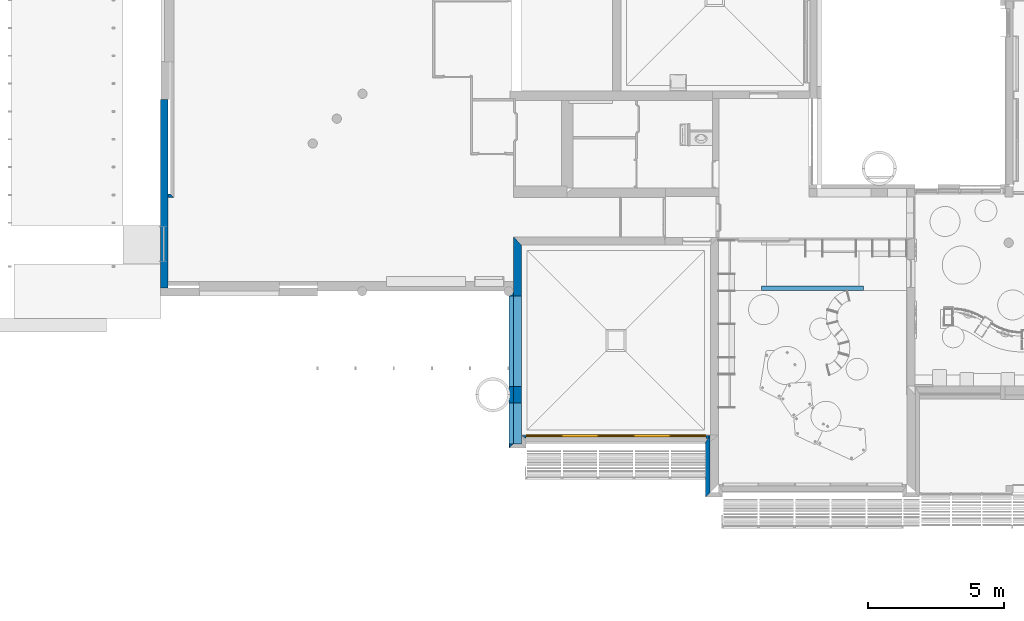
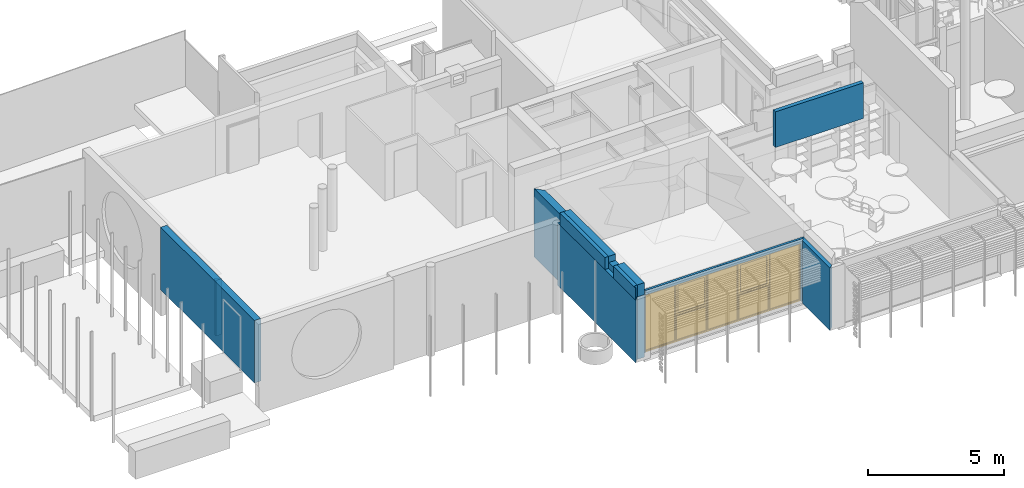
# One storey, part 20 of 64: 9 walls, 5 windows, 5 openings.
"""IFC2X3 building model written with IfcOpenShell, lengths in metres."""

from ifc_helpers import new_model, entity, si_unit, converted_unit, derived_unit, direction, frame, frame_2d, origin, origin_2d_with_axis, place, context, subcontext, project, spatial, polyline, rectangle, outline, extrude, faceted_brep, source, transform, mapped, material, material_list, layer, layer_set, layer_usage, type_object, type_shapes, element, fill, save


model = new_model("IFC2X3")

# Units and contexts
model_context = context("Model", 3, precision=1e-05, world=origin(), true_north=direction((6.123031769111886e-17, 1.0)))
body_context = subcontext(model_context, "Body", "Model", "MODEL_VIEW")
ifc_project = project(units=[si_unit("LENGTHUNIT", "METRE"), si_unit("AREAUNIT", "SQUARE_METRE"), si_unit("VOLUMEUNIT", "CUBIC_METRE"), converted_unit("PLANEANGLEUNIT", "DEGREE", entity("IfcRatioMeasure", 0.017453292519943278), si_unit("PLANEANGLEUNIT", "RADIAN"), dimensions=[0, 0, 0, 0, 0, 0, 0]), si_unit("MASSUNIT", "GRAM", prefix="KILO"), derived_unit("MASSDENSITYUNIT", [(si_unit("MASSUNIT", "GRAM", prefix="KILO"), 1), (si_unit("LENGTHUNIT", "METRE"), -3)]), derived_unit("MOMENTOFINERTIAUNIT", [(si_unit("LENGTHUNIT", "METRE"), 4)]), si_unit("TIMEUNIT", "SECOND"), si_unit("FREQUENCYUNIT", "HERTZ"), si_unit("THERMODYNAMICTEMPERATUREUNIT", "DEGREE_CELSIUS"), derived_unit("THERMALTRANSMITTANCEUNIT", [(si_unit("MASSUNIT", "GRAM", prefix="KILO"), 1), (si_unit("THERMODYNAMICTEMPERATUREUNIT", "KELVIN"), -1), (si_unit("TIMEUNIT", "SECOND"), -3)]), derived_unit("THERMALCONDUCTANCEUNIT", [(si_unit("MASSUNIT", "GRAM", prefix="KILO"), 1), (si_unit("LENGTHUNIT", "METRE"), 1), (si_unit("THERMODYNAMICTEMPERATUREUNIT", "KELVIN"), -1), (si_unit("TIMEUNIT", "SECOND"), -3)]), derived_unit("VOLUMETRICFLOWRATEUNIT", [(si_unit("LENGTHUNIT", "METRE"), 3), (si_unit("TIMEUNIT", "SECOND"), -1)]), derived_unit("MASSFLOWRATEUNIT", [(si_unit("MASSUNIT", "GRAM", prefix="KILO"), 1), (si_unit("TIMEUNIT", "SECOND"), -1)]), derived_unit("ROTATIONALFREQUENCYUNIT", [(si_unit("TIMEUNIT", "SECOND"), -1)]), si_unit("ELECTRICCURRENTUNIT", "AMPERE"), si_unit("ELECTRICVOLTAGEUNIT", "VOLT"), si_unit("POWERUNIT", "WATT"), si_unit("FORCEUNIT", "NEWTON", prefix="KILO"), si_unit("ILLUMINANCEUNIT", "LUX"), si_unit("LUMINOUSFLUXUNIT", "LUMEN"), si_unit("LUMINOUSINTENSITYUNIT", "CANDELA"), derived_unit("USERDEFINED", [(si_unit("MASSUNIT", "GRAM", prefix="KILO"), -1), (si_unit("LENGTHUNIT", "METRE"), -2), (si_unit("TIMEUNIT", "SECOND"), 3), (si_unit("LUMINOUSFLUXUNIT", "LUMEN"), 1)]), derived_unit("USERDEFINED", [(si_unit("MASSUNIT", "GRAM", prefix="KILO"), 1), (si_unit("LENGTHUNIT", "METRE"), 3), (si_unit("TIMEUNIT", "SECOND"), -3), (si_unit("ELECTRICCURRENTUNIT", "AMPERE"), -2)]), derived_unit("USERDEFINED", [(si_unit("LENGTHUNIT", "METRE"), 2), (si_unit("TIMEUNIT", "SECOND"), -2)]), derived_unit("SOUNDPOWERUNIT", [(si_unit("MASSUNIT", "GRAM", prefix="KILO"), 1), (si_unit("LENGTHUNIT", "METRE"), 2), (si_unit("TIMEUNIT", "SECOND"), -3)]), derived_unit("SOUNDPRESSUREUNIT", [(si_unit("MASSUNIT", "GRAM", prefix="KILO"), 1), (si_unit("LENGTHUNIT", "METRE"), -1), (si_unit("TIMEUNIT", "SECOND"), -2)]), derived_unit("LINEARVELOCITYUNIT", [(si_unit("LENGTHUNIT", "METRE"), 1), (si_unit("TIMEUNIT", "SECOND"), -1)]), si_unit("PRESSUREUNIT", "PASCAL"), derived_unit("USERDEFINED", [(si_unit("LENGTHUNIT", "METRE"), -2), (si_unit("MASSUNIT", "GRAM", prefix="KILO"), 1), (si_unit("TIMEUNIT", "SECOND"), -2)]), derived_unit("LINEARFORCEUNIT", [(si_unit("MASSUNIT", "GRAM", prefix="KILO"), 1), (si_unit("LENGTHUNIT", "METRE"), 1), (si_unit("TIMEUNIT", "SECOND"), -2), (si_unit("LENGTHUNIT", "METRE"), -1)]), derived_unit("PLANARFORCEUNIT", [(si_unit("MASSUNIT", "GRAM", prefix="KILO"), 1), (si_unit("LENGTHUNIT", "METRE"), 1), (si_unit("TIMEUNIT", "SECOND"), -2), (si_unit("LENGTHUNIT", "METRE"), -2)]), derived_unit("SPECIFICHEATCAPACITYUNIT", [(si_unit("LENGTHUNIT", "METRE"), 2), (si_unit("TIMEUNIT", "SECOND"), -2), (si_unit("THERMODYNAMICTEMPERATUREUNIT", "KELVIN"), -1)]), derived_unit("VAPORPERMEABILITYUNIT", [(si_unit("TIMEUNIT", "SECOND"), 1), (si_unit("LENGTHUNIT", "METRE"), -1)]), derived_unit("DYNAMICVISCOSITYUNIT", [(si_unit("MASSUNIT", "GRAM", prefix="KILO"), 1), (si_unit("LENGTHUNIT", "METRE"), -1), (si_unit("TIMEUNIT", "SECOND"), -1)]), derived_unit("THERMALEXPANSIONCOEFFICIENTUNIT", [(si_unit("THERMODYNAMICTEMPERATUREUNIT", "KELVIN"), -1)])], contexts=[model_context])

# Site, building, storey
site_placement = place(None, origin())
site = spatial("IfcSite", under=ifc_project, at=site_placement, Name="Default", CompositionType="ELEMENT")
building_placement = place(site_placement, origin())
building = spatial("IfcBuilding", under=site, at=building_placement, CompositionType="ELEMENT")
storey_placement = place(building_placement, origin())
storey = spatial("IfcBuildingStorey", under=building, at=storey_placement, Name="REZ-DE-CHAUSSÉE", CompositionType="ELEMENT", Elevation=0.0)

# Walls
wall_type_1 = type_object("IfcWallType", Name="MurExt-005", PredefinedType="NOTDEFINED")
wall_1_placement = place(storey_placement, frame((102.66075227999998, 5.95720948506, 2.8), z_axis=(0.0, 0.0, 1.0), x_axis=(0.0, 1.0, 0.0)))
element("IfcWall", 1, at=wall_1_placement, inside=storey, type_object=wall_type_1, Name="MurExt-005:MurExt-005", ObjectType="MurExt-005:MurExt-005", context=body_context, shape_type="SweptSolid", body=[
    extrude(rectangle(XDim=3.3100000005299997, YDim=0.3000000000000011, at=origin_2d_with_axis()), frame((3.764999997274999, -0.15000000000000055, 0.0)), (0.0, 0.0, 1.0), 0.5400000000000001),
    extrude(rectangle(XDim=1.4899999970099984, YDim=0.3000000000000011, at=frame_2d((-5.551115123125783e-16, 0.0), x_axis=(1.0, 0.0))), frame((0.7449999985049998, -0.15000000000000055, 0.0)), (0.0, 0.0, 1.0), 0.5400000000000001),
])
wall_type_2 = type_object("IfcWallType", Name="MurExt-017", PredefinedType="NOTDEFINED")
wall_2_placement = place(storey_placement, frame((102.50075227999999, 5.797209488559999, 2.8), z_axis=(0.0, 0.0, 1.0), x_axis=(0.0, 1.0, 0.0)))
element("IfcWall", 2, at=wall_2_placement, inside=storey, type_object=wall_type_2, Name="MurExt-017:MurExt-017", ObjectType="MurExt-017:MurExt-017", context=body_context, shape_type="SweptSolid", body=[
    extrude(rectangle(XDim=1.6299999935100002, YDim=0.019999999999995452, at=frame_2d((-1.1102230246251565e-15, 0.0), x_axis=(1.0, 0.0))), frame((0.834999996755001, -0.009999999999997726, 0.0)), (0.0, 0.0, 1.0), 0.5400000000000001),
    extrude(rectangle(XDim=3.3100000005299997, YDim=0.019999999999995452, at=origin_2d_with_axis()), frame((3.9249999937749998, -0.009999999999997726, 0.0)), (0.0, 0.0, 1.0), 0.5400000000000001),
    extrude(rectangle(XDim=1.4899999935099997, YDim=0.14000000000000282, at=origin_2d_with_axis()), frame((0.9049999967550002, -0.08999999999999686, 0.0)), (0.0, 0.0, 1.0), 0.5400000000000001),
    extrude(rectangle(XDim=3.3100000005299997, YDim=0.14000000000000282, at=origin_2d_with_axis()), frame((3.9249999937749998, -0.08999999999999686, 0.0)), (0.0, 0.0, 1.0), 0.5400000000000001),
])
wall_type_3 = type_object("IfcWallType", Name="MurExt-021", PredefinedType="NOTDEFINED")
wall_3_placement = place(storey_placement, frame((111.76075228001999, 11.577209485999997, 2.8999999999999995)))
element("IfcWall", 3, at=wall_3_placement, inside=storey, type_object=wall_type_3, Name="MurExt-021 300629:MurExt-021 300629", ObjectType="MurExt-021 300629:MurExt-021 300629", context=body_context, shape_type="SweptSolid", body=[
    extrude(rectangle(XDim=3.7299999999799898, YDim=0.17000000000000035, at=origin_2d_with_axis()), frame((1.8649999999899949, 0.08500000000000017, 0.0), z_axis=(0.0, 0.0, 1.0), x_axis=(-1.0, 0.0, 0.0)), (0.0, 0.0, 1.0), 1.6),
])
ifc_material_1 = material(Name="Appareillage - Pierre taillé")
ifc_layer_1 = layer(ifc_material_1, 0.29999999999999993)
ifc_layer_set_1 = layer_set([ifc_layer_1], Name="Mur de base:Struct. - Pierre 300")
ifc_layer_usage_1 = layer_usage(ifc_layer_set_1, "AXIS2", "NEGATIVE", 0.14999999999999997)
wall_type_4 = type_object("IfcWallType", Name="Mur de base:Struct. - Pierre 300", PredefinedType="STANDARD", material=ifc_layer_set_1)
wall_4_placement = place(storey_placement, frame((102.81075227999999, 5.95720948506, 0.0), z_axis=(0.0, 0.0, 1.0), x_axis=(0.0, 1.0, 0.0)))
element("IfcWallStandardCase", 4, at=wall_4_placement, inside=storey, type_object=wall_type_4, material=ifc_layer_usage_1, Name="MurExt-005", ObjectType="Mur de base:Struct. - Pierre 300", context=body_context, shape_type="SweptSolid", body=[
    extrude(outline(polyline([(7.27999999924, -0.15000000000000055), (7.589999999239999, 0.15000000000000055), (0.0, 0.15000000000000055), (0.0, -0.15000000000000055), (7.27999999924, -0.15000000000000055)])), origin(), (0.0, 0.0, 1.0), 3.06),
])
ifc_material_2 = material(Name="Enduit - Jaune nature")
ifc_layer_2 = layer(ifc_material_2, 0.02)
ifc_material_3 = material(Name="Isolation - Fibre de verre")
ifc_layer_3 = layer(ifc_material_3, 0.14)
ifc_layer_set_2 = layer_set([ifc_layer_2, ifc_layer_3], Name="Mur de base:ABA ITE 140 + enduit 160")
ifc_layer_usage_2 = layer_usage(ifc_layer_set_2, "AXIS2", "NEGATIVE", 0.08)
wall_type_5 = type_object("IfcWallType", Name="Mur de base:ABA ITE 140 + enduit 160", PredefinedType="STANDARD", material=ifc_layer_set_2)
wall_5_placement = place(storey_placement, frame((109.790752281, 4.00720948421, 0.0), z_axis=(0.0, 0.0, 1.0), x_axis=(0.0, 1.0, 0.0)))
element("IfcWallStandardCase", 5, at=wall_5_placement, inside=storey, type_object=wall_type_5, material=ifc_layer_usage_2, Name="MurExt-017", ObjectType="Mur de base:ABA ITE 140 + enduit 160", context=body_context, shape_type="SweptSolid", body=[
    extrude(outline(polyline([(2.269999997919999, -0.07999999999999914), (2.0199999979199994, 0.07999999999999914), (0.0, 0.07999999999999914), (0.16000000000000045, -0.07999999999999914), (2.269999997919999, -0.07999999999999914)])), origin(), (0.0, 0.0, 1.0), 2.8),
])
wall_6_placement = place(storey_placement, frame((102.58075227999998, 5.79720948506, 0.0), z_axis=(0.0, 0.0, 1.0), x_axis=(0.0, 1.0, 0.0)))
element("IfcWallStandardCase", 6, at=wall_6_placement, inside=storey, type_object=wall_type_5, material=ifc_layer_usage_2, Name="MurExt-019", ObjectType="Mur de base:ABA ITE 140 + enduit 160", context=body_context, shape_type="SweptSolid", body=[
    extrude(outline(polyline([(5.751009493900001, -0.07999999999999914), (5.751009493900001, 0.07999999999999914), (0.0, 0.07999999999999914), (0.16000000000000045, -0.07999999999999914), (5.751009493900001, -0.07999999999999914)])), origin(), (0.0, 0.0, 1.0), 2.8),
])
ifc_material_4 = material(Name="Bois - Pin granuleux horizontal")
ifc_layer_4 = layer(ifc_material_4, 0.02)
ifc_material_5 = material(Name="Bois - Panneaux de particules")
ifc_layer_5 = layer(ifc_material_5, 0.0125)
ifc_layer_6 = layer(ifc_material_3, 0.145)
ifc_layer_7 = layer(ifc_material_5, 0.0125)
ifc_layer_8 = layer(ifc_material_3, 0.067)
ifc_material_6 = material(Name="Plâtre - Plaques de plâtre")
ifc_layer_9 = layer(ifc_material_6, 0.013)
ifc_layer_set_3 = layer_set([ifc_layer_4, ifc_layer_5, ifc_layer_6, ifc_layer_7, ifc_layer_8, ifc_layer_9], Name="Mur de base:ABA MOB ITI costière 270")
ifc_layer_usage_3 = layer_usage(ifc_layer_set_3, "AXIS2", "NEGATIVE", 0.13499999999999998)
wall_type_6 = type_object("IfcWallType", Name="Mur de base:ABA MOB ITI costière 270", PredefinedType="STANDARD", material=ifc_layer_set_3)
wall_7_placement = place(storey_placement, frame((89.8657522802, 11.677209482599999, 0.0), z_axis=(0.0, 0.0, 1.0), x_axis=(0.0, 1.0, 0.0)))
element("IfcWallStandardCase", 7, at=wall_7_placement, inside=storey, type_object=wall_type_6, material=ifc_layer_usage_3, Name="MurExt-007", ObjectType="Mur de base:ABA MOB ITI costière 270", context=body_context, shape_type="SweptSolid", body=[
    extrude(rectangle(XDim=6.9000000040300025, YDim=0.2700000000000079, at=frame_2d((3.4500000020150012, 0.0), x_axis=(-1.0, 0.0))), origin(), (0.0, 0.0, 1.0), 2.8),
])
ifc_layer_10 = layer(ifc_material_6, 0.013)
ifc_layer_11 = layer(ifc_material_3, 0.127)
ifc_layer_set_4 = layer_set([ifc_layer_10, ifc_layer_11], Name="Mur de base:ABA doublage 14cm 140")
ifc_layer_usage_4 = layer_usage(ifc_layer_set_4, "AXIS2", "NEGATIVE", 0.07)
wall_type_7 = type_object("IfcWallType", Name="Mur de base:ABA doublage 14cm 140", PredefinedType="STANDARD", material=ifc_layer_set_4)
wall_8_placement = place(storey_placement, frame((90.23075228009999, 15.047209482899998, 0.0), z_axis=(0.0, 0.0, 1.0), x_axis=(-1.0, 0.0, 0.0)))
element("IfcWallStandardCase", 8, at=wall_8_placement, inside=storey, type_object=wall_type_7, material=ifc_layer_usage_4, Name="MurExt-026", ObjectType="Mur de base:ABA doublage 14cm 140", context=body_context, shape_type="SweptSolid", body=[
    extrude(outline(polyline([(0.22999999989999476, -0.07000000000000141), (0.22999999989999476, 0.06999999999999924), (0.0, 0.06999999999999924), (0.14000000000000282, -0.07000000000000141), (0.22999999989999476, -0.07000000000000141)])), origin(), (0.0, 0.0, 1.0), 2.4999999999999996),
])

# Wall, openings, windows
ifc_layer_12 = layer(ifc_material_3, 0.1)
ifc_layer_set_5 = layer_set([ifc_layer_12], Name="Mur de base:Isolation - Laine de verre 100")
ifc_layer_usage_5 = layer_usage(ifc_layer_set_5, "AXIS2", "NEGATIVE", 0.05)
wall_type_8 = type_object("IfcWallType", Name="Mur de base:Isolation - Laine de verre 100", PredefinedType="STANDARD", material=ifc_layer_set_5)
wall_9_placement = place(storey_placement, frame((109.870752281, 6.20720948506, 0.0), z_axis=(0.0, 0.0, 1.0), x_axis=(-1.0, 0.0, 0.0)))
wall_9 = element("IfcWallStandardCase", 9, at=wall_9_placement, inside=storey, type_object=wall_type_8, material=ifc_layer_usage_5, Name="MurExt-027", ObjectType="Mur de base:Isolation - Laine de verre 100", context=body_context, shape_type="SweptSolid", body=[
    extrude(outline(polyline([(0.0, -0.050000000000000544), (6.910000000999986, -0.050000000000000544), (6.750000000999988, 0.04999999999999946), (0.0, 0.04999999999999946), (0.0, -0.050000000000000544)])), origin(), (0.0, 0.0, 1.0), 2.8),
])
opening_1_placement = place(wall_9_placement, frame((109.870752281, 6.20720948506, 0.0), z_axis=(0.0, 0.0, 1.0), x_axis=(-1.0, 0.0, 0.0)))
opening_1 = element("IfcOpeningElement", 10, at=opening_1_placement, cuts=wall_9, Name="MurExt-027", ObjectType="Opening", context=body_context, shape_type="SweptSolid", body=[
    extrude(rectangle(XDim=2.6, YDim=1.3199999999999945, at=frame_2d((0.0, -8.659739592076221e-15), x_axis=(1.0, 0.0))), frame((106.42075228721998, 6.308209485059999, 1.3), z_axis=(0.0, -1.0, 0.0), x_axis=(0.0, 0.0, -1.0)), (0.0, 0.0, 1.0), 0.20199999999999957),
])
opening_2_placement = place(wall_9_placement, frame((109.870752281, 6.20720948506, 0.0), z_axis=(0.0, 0.0, 1.0), x_axis=(-1.0, 0.0, 0.0)))
opening_2 = element("IfcOpeningElement", 11, at=opening_2_placement, cuts=wall_9, Name="MurExt-027", ObjectType="Opening", context=body_context, shape_type="SweptSolid", body=[
    extrude(rectangle(XDim=2.6, YDim=1.3199999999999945, at=frame_2d((8.659739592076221e-15, 0.0), x_axis=(0.0, 1.0))), frame((107.74075228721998, 6.308209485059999, 1.3), z_axis=(0.0, -1.0, 0.0), x_axis=(1.0, 0.0, 0.0)), (0.0, 0.0, 1.0), 0.20199999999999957),
])
opening_3_placement = place(wall_9_placement, frame((109.870752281, 6.20720948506, 0.0), z_axis=(0.0, 0.0, 1.0), x_axis=(-1.0, 0.0, 0.0)))
opening_3 = element("IfcOpeningElement", 12, at=opening_3_placement, cuts=wall_9, Name="MurExt-027", ObjectType="Opening", context=body_context, shape_type="SweptSolid", body=[
    extrude(rectangle(XDim=2.6, YDim=1.3199999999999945, at=frame_2d((0.0, 8.659739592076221e-15), x_axis=(1.0, 0.0))), frame((109.06075228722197, 6.308209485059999, 1.3), z_axis=(0.0, -1.0, 0.0), x_axis=(0.0, 0.0, -1.0)), (0.0, 0.0, 1.0), 0.20199999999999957),
])
opening_4_placement = place(wall_9_placement, frame((109.870752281, 6.20720948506, 0.0), z_axis=(0.0, 0.0, 1.0), x_axis=(-1.0, 0.0, 0.0)))
opening_4 = element("IfcOpeningElement", 13, at=opening_4_placement, cuts=wall_9, Name="MurExt-027", ObjectType="Opening", context=body_context, shape_type="SweptSolid", body=[
    extrude(rectangle(XDim=2.6, YDim=1.3199999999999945, at=frame_2d((0.0, -8.659739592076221e-15), x_axis=(1.0, 0.0))), frame((105.10075228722, 6.308209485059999, 1.3), z_axis=(0.0, -1.0, 0.0), x_axis=(0.0, 0.0, -1.0)), (0.0, 0.0, 1.0), 0.20199999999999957),
])
opening_5_placement = place(wall_9_placement, frame((109.870752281, 6.20720948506, 0.0), z_axis=(0.0, 0.0, 1.0), x_axis=(-1.0, 0.0, 0.0)))
opening_5 = element("IfcOpeningElement", 14, at=opening_5_placement, cuts=wall_9, Name="MurExt-027", ObjectType="Opening", context=body_context, shape_type="SweptSolid", body=[
    extrude(rectangle(XDim=2.6, YDim=1.3199999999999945, at=frame_2d((-8.659739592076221e-15, 0.0), x_axis=(0.0, 1.0))), frame((103.78075228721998, 6.308209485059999, 1.3), z_axis=(0.0, -1.0, 0.0), x_axis=(1.0, 0.0, 0.0)), (0.0, 0.0, 1.0), 0.20199999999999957),
])
ifc_material_7 = material(Name="Transp. - Verre clair (rapide)")
ifc_material_8 = material(Name="Peinture - Anthracite")
ifc_material_list = material_list([ifc_material_7, ifc_material_8])
window_style_1 = type_object("IfcWindowStyle", Name="Fen-004", ConstructionType="NOTDEFINED", OperationType="NOTDEFINED", ParameterTakesPrecedence=False, Sizeable=False, material=ifc_material_list)
shared_shape_1 = source(origin(), body_context, "Body", "SweptSolid", [
    extrude(rectangle(XDim=1.26, YDim=0.010000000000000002, at=frame_2d((0.0, -4.336808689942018e-18), x_axis=(1.0, 0.0))), frame((0.6600000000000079, -0.15099999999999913, 0.0601)), (0.0, 0.0, 1.0), 2.4899),
    extrude(outline(polyline([(-1.3, -0.6599999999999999), (1.3, -0.6599999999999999), (1.3, 0.6599999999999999), (-1.3, 0.6599999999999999), (-1.3, -0.6599999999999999)]), holes=[polyline([(1.2400000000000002, 0.63), (1.2400000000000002, -0.63), (-1.2499999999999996, -0.63), (-1.2499999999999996, 0.63), (1.2400000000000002, 0.63)])]), frame((0.6600000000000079, -0.20099999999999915, 1.3), z_axis=(0.0, 1.0, 0.0), x_axis=(0.0, 0.0, -1.0)), (0.0, 0.0, 1.0), 0.1),
])
type_shapes(window_style_1, [shared_shape_1])
window_1_placement = place(opening_1_placement, frame((107.08075228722, 6.10620948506, 0.0), z_axis=(0.0, 0.0, 1.0), x_axis=(-1.0, 0.0, 0.0)))
window_1 = element("IfcWindow", 15, at=window_1_placement, inside=storey, type_object=window_style_1, material=ifc_material_list, Name="Fen-004 54853:Fen-004 54853", ObjectType="Fen-004 54853:Fen-004 54853", OverallHeight=2.6, OverallWidth=1.3199999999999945, context=body_context, shape_type="MappedRepresentation", body=[
    mapped(shared_shape_1, transform((0.0, 0.0, 0.0), scale=1.0)),
])
fill(opening_1, window_1)
window_2_placement = place(opening_3_placement, frame((109.72075228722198, 6.10620948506, 0.0), z_axis=(0.0, 0.0, 1.0), x_axis=(-1.0, 0.0, 0.0)))
window_2 = element("IfcWindow", 16, at=window_2_placement, inside=storey, type_object=window_style_1, material=ifc_material_list, Name="Fen-004 54853:Fen-004 54853", ObjectType="Fen-004 54853:Fen-004 54853", OverallHeight=2.6, OverallWidth=1.3199999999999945, context=body_context, shape_type="MappedRepresentation", body=[
    mapped(shared_shape_1, transform((0.0, 0.0, 0.0), scale=1.0)),
])
fill(opening_3, window_2)
window_style_2 = type_object("IfcWindowStyle", Name="Fen-004", ConstructionType="NOTDEFINED", OperationType="NOTDEFINED", ParameterTakesPrecedence=False, Sizeable=False, material=ifc_material_7)
shared_shape_2 = source(origin(), body_context, "Body", "Brep", [
    faceted_brep([(0.0, -0.10100000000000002, 2.6), (1.3199999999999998, -0.10100000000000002, 2.6), (1.3199999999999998, -0.10100000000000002, 0.0), (0.0, -0.10100000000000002, 0.0), (1.29, -0.10100000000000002, 1.1999999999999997), (1.29, -0.10100000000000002, 2.55), (0.029999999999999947, -0.10100000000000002, 2.55), (0.029999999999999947, -0.10100000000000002, 1.1999999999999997), (1.29, -0.10100000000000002, 1.15), (0.029999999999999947, -0.10100000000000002, 1.15), (0.029999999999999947, -0.10100000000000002, 0.059999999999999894), (1.29, -0.10100000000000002, 0.059999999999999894), (0.0, -0.201, 2.6), (1.3199999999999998, -0.201, 2.6), (1.3199999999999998, -0.201, 0.0), (0.0, -0.201, 0.0), (1.29, -0.201, 1.1999999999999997), (1.29, -0.201, 2.55), (0.029999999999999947, -0.201, 2.55), (0.029999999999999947, -0.201, 1.1999999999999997), (1.29, -0.201, 1.15), (0.029999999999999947, -0.201, 1.15), (0.029999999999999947, -0.201, 0.05999999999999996), (1.29, -0.201, 0.06), (1.29, -0.161, 2.55), (0.029999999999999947, -0.161, 2.55), (0.029999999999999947, -0.161, 1.1999999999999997), (1.29, -0.161, 1.1999999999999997), (1.22, -0.161, 2.48), (1.22, -0.161, 1.2699999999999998), (0.09999999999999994, -0.161, 1.2699999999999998), (0.09999999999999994, -0.161, 2.48), (1.29, -0.11100000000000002, 2.55), (0.029999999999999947, -0.11100000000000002, 2.55), (0.029999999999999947, -0.11100000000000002, 1.1999999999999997), (1.29, -0.11100000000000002, 1.1999999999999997), (1.22, -0.11100000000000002, 2.48), (1.22, -0.11100000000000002, 1.2699999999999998), (0.09999999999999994, -0.11100000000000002, 1.2699999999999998), (0.09999999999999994, -0.11100000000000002, 2.48), (0.029999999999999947, -0.136, 2.55), (0.029999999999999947, -0.136, 1.1999999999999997), (1.29, -0.136, 2.55), (1.29, -0.136, 1.1999999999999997), (0.09999999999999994, -0.14100000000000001, 1.2699999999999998), (0.09999999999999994, -0.131, 1.2699999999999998), (1.22, -0.131, 1.2699999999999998), (1.22, -0.14100000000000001, 1.2699999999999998), (0.09999999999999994, -0.14100000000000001, 2.48), (0.09999999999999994, -0.131, 2.48), (1.22, -0.131, 2.48), (1.22, -0.14100000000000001, 2.48), (0.029999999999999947, -0.156, 0.0601), (0.029999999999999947, -0.14600000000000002, 0.0601), (1.29, -0.14600000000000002, 0.0601), (1.29, -0.156, 0.0601), (0.029999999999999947, -0.156, 1.15), (0.029999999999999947, -0.14600000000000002, 1.15), (1.29, -0.14600000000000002, 1.15), (1.29, -0.156, 1.15)], [[[0, 1, 2, 3], [4, 5, 6, 7], [8, 9, 10, 11]], [[1, 0, 12, 13]], [[2, 1, 13, 14]], [[3, 2, 14, 15]], [[0, 3, 15, 12]], [[16, 17, 5, 4]], [[6, 5, 17, 18]], [[7, 6, 18, 19]], [[4, 7, 19, 16]], [[20, 21, 9, 8]], [[21, 22, 10, 9]], [[11, 10, 22, 23]], [[8, 11, 23, 20]], [[14, 13, 12, 15], [16, 19, 18, 17], [20, 23, 22, 21]], [[24, 25, 26, 27], [28, 29, 30, 31]], [[24, 32, 33, 25]], [[33, 34, 26, 25]], [[34, 35, 27, 26]], [[27, 35, 32, 24]], [[28, 36, 37, 29]], [[37, 38, 30, 29]], [[38, 39, 31, 30]], [[31, 39, 36, 28]], [[33, 32, 35, 34], [37, 36, 39, 38]], [[26, 25, 40, 41]], [[27, 24, 42, 43]], [[26, 27, 43, 41]], [[25, 24, 42, 40]], [[41, 40, 33, 34]], [[43, 42, 32, 35]], [[41, 43, 35, 34]], [[40, 42, 32, 33]], [[44, 45, 46, 47]], [[48, 49, 45, 44]], [[45, 49, 50, 46]], [[47, 46, 50, 51]], [[44, 47, 51, 48]], [[51, 50, 49, 48]], [[52, 53, 54, 55]], [[56, 57, 53, 52]], [[53, 57, 58, 54]], [[55, 54, 58, 59]], [[52, 55, 59, 56]], [[59, 58, 57, 56]]]),
])
type_shapes(window_style_2, [shared_shape_2])
window_3_placement = place(opening_2_placement, frame((108.40075228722, 6.10620948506, 0.0), z_axis=(0.0, 0.0, 1.0), x_axis=(-1.0, 0.0, 0.0)))
window_3 = element("IfcWindow", 17, at=window_3_placement, inside=storey, type_object=window_style_2, material=ifc_material_7, Name="Fen-004 55397:Fen-004 55397", ObjectType="Fen-004 55397:Fen-004 55397", OverallHeight=2.6, OverallWidth=1.3199999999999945, context=body_context, shape_type="MappedRepresentation", body=[
    mapped(shared_shape_2, transform((0.0, 0.0, 0.0), scale=1.0)),
])
fill(opening_2, window_3)
window_style_3 = type_object("IfcWindowStyle", Name="Fen-004", ConstructionType="NOTDEFINED", OperationType="NOTDEFINED", ParameterTakesPrecedence=False, Sizeable=False, material=ifc_material_7)
shared_shape_3 = source(origin(), body_context, "Body", "Brep", [
    faceted_brep([(1.3199999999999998, -0.10100000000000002, 2.6), (1.3199999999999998, -0.10100000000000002, 0.0), (0.0, -0.10100000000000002, 0.0), (0.0, -0.10100000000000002, 2.6), (0.029999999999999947, -0.10100000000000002, 1.1999999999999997), (1.29, -0.10100000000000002, 1.1999999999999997), (1.29, -0.10100000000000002, 2.55), (0.029999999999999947, -0.10100000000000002, 2.55), (0.029999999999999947, -0.10100000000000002, 1.15), (0.029999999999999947, -0.10100000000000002, 0.059999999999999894), (1.29, -0.10100000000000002, 0.059999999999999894), (1.29, -0.10100000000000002, 1.15), (1.3199999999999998, -0.201, 2.6), (1.3199999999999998, -0.201, 0.0), (0.0, -0.201, 0.0), (0.0, -0.201, 2.6), (0.029999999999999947, -0.201, 1.1999999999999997), (1.29, -0.201, 1.1999999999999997), (1.29, -0.201, 2.55), (0.029999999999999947, -0.201, 2.55), (0.029999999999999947, -0.201, 1.15), (0.029999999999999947, -0.201, 0.06000000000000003), (1.29, -0.201, 0.06), (1.29, -0.201, 1.15), (0.029999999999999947, -0.161, 2.55), (0.029999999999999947, -0.161, 1.1999999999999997), (1.29, -0.161, 1.1999999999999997), (1.29, -0.161, 2.55), (0.09999999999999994, -0.161, 2.48), (1.22, -0.161, 2.48), (1.22, -0.161, 1.2699999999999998), (0.09999999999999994, -0.161, 1.2699999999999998), (0.029999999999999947, -0.11100000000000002, 2.55), (0.029999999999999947, -0.11100000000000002, 1.1999999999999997), (1.29, -0.11100000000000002, 1.1999999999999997), (1.29, -0.11100000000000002, 2.55), (0.09999999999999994, -0.11100000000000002, 2.48), (1.22, -0.11100000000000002, 2.48), (1.22, -0.11100000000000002, 1.2699999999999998), (0.09999999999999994, -0.11100000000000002, 1.2699999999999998), (1.29, -0.136, 1.1999999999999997), (1.29, -0.136, 2.55), (0.029999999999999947, -0.136, 1.1999999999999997), (0.029999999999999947, -0.136, 2.55), (1.22, -0.14100000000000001, 1.2699999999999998), (0.09999999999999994, -0.14100000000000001, 1.2699999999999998), (0.09999999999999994, -0.131, 1.2699999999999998), (1.22, -0.131, 1.2699999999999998), (1.22, -0.14100000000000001, 2.48), (0.09999999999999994, -0.14100000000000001, 2.48), (0.09999999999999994, -0.131, 2.48), (1.22, -0.131, 2.48), (1.29, -0.156, 0.0601), (0.029999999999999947, -0.156, 0.0601), (0.029999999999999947, -0.14600000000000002, 0.0601), (1.29, -0.14600000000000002, 0.0601), (1.29, -0.156, 1.15), (0.029999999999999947, -0.156, 1.15), (0.029999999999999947, -0.14600000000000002, 1.15), (1.29, -0.14600000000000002, 1.15)], [[[0, 1, 2, 3], [4, 5, 6, 7], [8, 9, 10, 11]], [[0, 12, 13, 1]], [[1, 13, 14, 2]], [[2, 14, 15, 3]], [[3, 15, 12, 0]], [[4, 16, 17, 5]], [[5, 17, 18, 6]], [[6, 18, 19, 7]], [[16, 4, 7, 19]], [[8, 20, 21, 9]], [[9, 21, 22, 10]], [[23, 11, 10, 22]], [[20, 8, 11, 23]], [[14, 13, 12, 15], [16, 19, 18, 17], [20, 23, 22, 21]], [[24, 25, 26, 27], [28, 29, 30, 31]], [[25, 24, 32, 33]], [[34, 26, 25, 33]], [[35, 27, 26, 34]], [[24, 27, 35, 32]], [[29, 28, 36, 37]], [[38, 30, 29, 37]], [[39, 31, 30, 38]], [[28, 31, 39, 36]], [[35, 34, 33, 32], [39, 38, 37, 36]], [[26, 40, 41, 27]], [[25, 42, 43, 24]], [[26, 40, 42, 25]], [[27, 41, 43, 24]], [[40, 34, 35, 41]], [[42, 33, 32, 43]], [[40, 34, 33, 42]], [[41, 35, 32, 43]], [[44, 45, 46, 47]], [[44, 48, 49, 45]], [[45, 49, 50, 46]], [[47, 46, 50, 51]], [[48, 44, 47, 51]], [[49, 48, 51, 50]], [[52, 53, 54, 55]], [[52, 56, 57, 53]], [[53, 57, 58, 54]], [[55, 54, 58, 59]], [[56, 52, 55, 59]], [[57, 56, 59, 58]]]),
])
type_shapes(window_style_3, [shared_shape_3])
window_4_placement = place(opening_4_placement, frame((105.76075228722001, 6.10620948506, 0.0), z_axis=(0.0, 0.0, 1.0), x_axis=(-1.0, 0.0, 0.0)))
window_4 = element("IfcWindow", 18, at=window_4_placement, inside=storey, type_object=window_style_3, material=ifc_material_7, Name="Fen-004 55975:Fen-004 55975", ObjectType="Fen-004 55975:Fen-004 55975", OverallHeight=2.6, OverallWidth=1.3199999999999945, context=body_context, shape_type="MappedRepresentation", body=[
    mapped(shared_shape_3, transform((0.0, 0.0, 0.0), scale=1.0)),
])
fill(opening_4, window_4)
window_style_4 = type_object("IfcWindowStyle", Name="Fen-004", ConstructionType="NOTDEFINED", OperationType="NOTDEFINED", ParameterTakesPrecedence=False, Sizeable=False, material=ifc_material_list)
shared_shape_4 = source(origin(), body_context, "Body", "SweptSolid", [
    extrude(rectangle(XDim=0.010000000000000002, YDim=1.26, at=frame_2d((-4.336808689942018e-18, 0.0), x_axis=(1.0, 0.0))), frame((0.6600000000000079, -0.15099999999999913, 0.0601), z_axis=(0.0, 0.0, 1.0), x_axis=(0.0, -1.0, 0.0)), (0.0, 0.0, 1.0), 2.4899),
    extrude(outline(polyline([(-0.6599999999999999, -1.3), (0.6599999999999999, -1.3), (0.6599999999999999, 1.3), (-0.6599999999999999, 1.3), (-0.6599999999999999, -1.3)]), holes=[polyline([(0.63, 1.2499999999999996), (0.63, -1.2400000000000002), (-0.63, -1.2400000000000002), (-0.63, 1.2499999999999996), (0.63, 1.2499999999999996)])]), frame((0.6600000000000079, -0.20099999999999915, 1.3), z_axis=(0.0, 1.0, 0.0), x_axis=(-1.0, 0.0, 0.0)), (0.0, 0.0, 1.0), 0.1),
])
type_shapes(window_style_4, [shared_shape_4])
window_5_placement = place(opening_5_placement, frame((104.44075228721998, 6.10620948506, 0.0), z_axis=(0.0, 0.0, 1.0), x_axis=(-1.0, 0.0, 0.0)))
window_5 = element("IfcWindow", 19, at=window_5_placement, inside=storey, type_object=window_style_4, material=ifc_material_list, Name="Fen-004 56171:Fen-004 56171", ObjectType="Fen-004 56171:Fen-004 56171", OverallHeight=2.6, OverallWidth=1.3199999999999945, context=body_context, shape_type="MappedRepresentation", body=[
    mapped(shared_shape_4, transform((0.0, 0.0, 0.0), scale=1.0)),
])
fill(opening_5, window_5)

save(model, "model.ifc")
